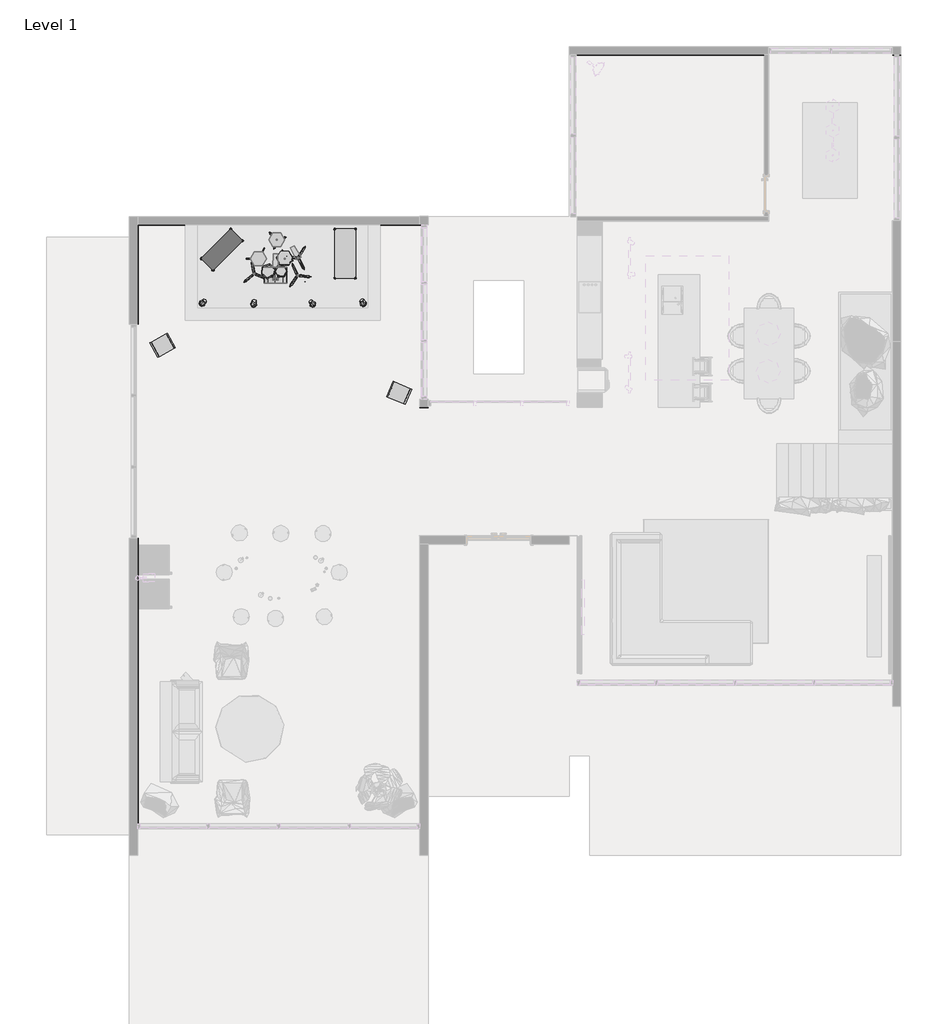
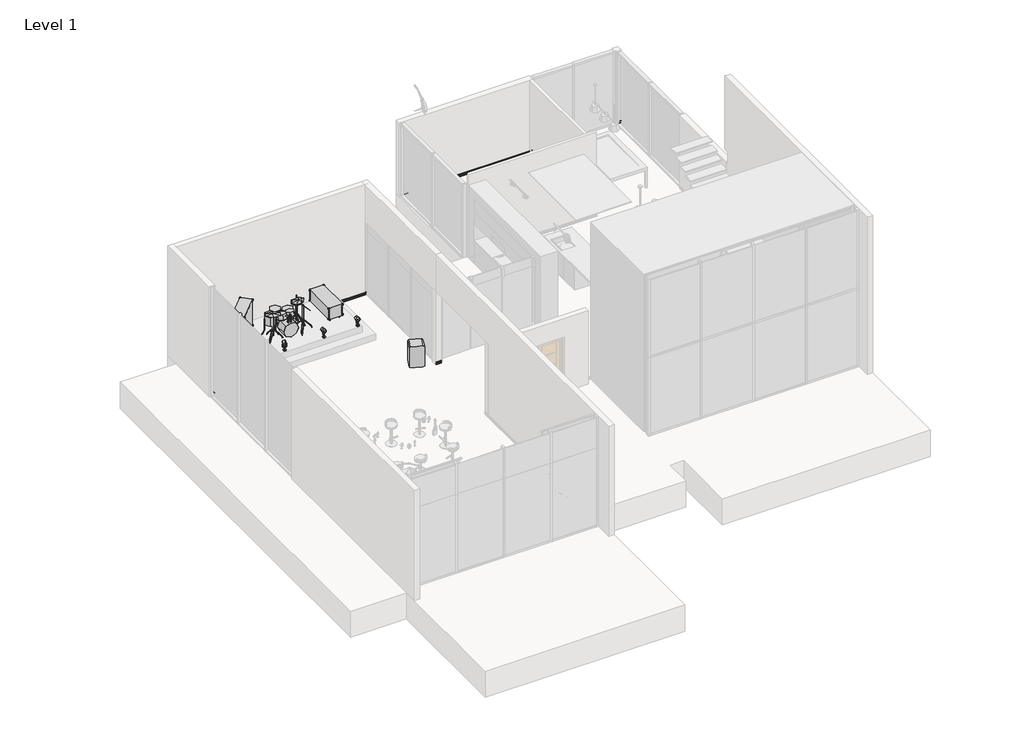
# One storey, part 3 of 6: 9 geographic elements, 1 proxy.
"""IFC4 building model written with IfcOpenShell, lengths in millimetres."""

from ifc_helpers import new_model, si_unit, frame, origin, place, context, project, spatial, polyline, circle_curve, ellipse_curve, transform, mapped, element, save
from ifc_brep_helpers import plane_surface, cylinder_surface, revolved_surface, advanced_brep
from components import enscape_assetdefinition_floor_lamp_026_enscape_de616a6a, enscape_assetdefinition_floor_lamp_026_enscape_8a451b57, enscape_assetdefinition_instrument_003_drum_set_enscape_302b556b, enscape_assetdefinition_speaker_010_enscape_assetdefinition_adeaf7f6, enscape_assetdefinition_stage_case_002_enscape_640d6d8b, enscape_assetdefinition_stage_case_003_enscape_c577ca59

model = new_model("IFC4")

# Units and contexts
model_context = context("Model", 3, world=origin())
ifc_project = project(units=[si_unit("LENGTHUNIT", "METRE", prefix="MILLI")], contexts=[model_context])

# Site, building, storey
site = spatial("IfcSite", under=ifc_project)
building = spatial("IfcBuilding", under=site)
storey = spatial("IfcBuildingStorey", under=building, Name="Level 1", Elevation=1000.0)

# Proxy
placement = place(None, origin())
element("IfcBuildingElementProxy", 1, Name="Brick Soldier Course", ObjectType="Brick Soldier Course", at=placement, inside=storey, context=model_context, shape_type="AdvancedBrep", body=[
    advanced_brep(
    [(24743.1337784, 17066.9206658, 1100.0), (24743.1337784, 17065.9239384, 1100.0), (24743.1337784, 17061.9206658, 1095.9967275), (24743.1337784, 17061.9206658, 1091.4365579), (24743.1337784, 17063.3572238, 1090.0), (24743.1337784, 17064.4323924, 1090.0), (24743.1337784, 17064.4323924, 1050.0), (24743.1337784, 17060.9323924, 1050.0), (24743.1337784, 17059.4323924, 1048.5), (24743.1337784, 17059.4323924, 1026.451226), (24743.1337784, 17060.8836184, 1025.0), (24743.1337784, 17061.9206658, 1025.0), (24743.1337784, 17061.9206658, 1017.9313406), (24743.1337784, 17060.6531616, 1017.9313406), (24743.1337784, 17059.2884138, 1016.7363778), (24743.1337784, 17053.7928378, 1000.0), (24743.1337784, 17066.9206658, 1000.0), (24543.1337784, 17066.9206658, 1100.0), (24543.1337784, 17066.9206658, 1000.0), (24543.1337784, 17053.7928378, 1000.0), (24543.1337784, 17059.2884138, 1016.7363778), (24543.1337784, 17060.6531616, 1017.9313406), (24543.1337784, 17061.9206658, 1017.9313406), (24543.1337784, 17061.9206658, 1025.0), (24543.1337784, 17060.8836184, 1025.0), (24543.1337784, 17059.4323924, 1026.451226), (24543.1337784, 17059.4323924, 1048.5), (24543.1337784, 17060.9323924, 1050.0), (24543.1337784, 17064.4323924, 1050.0), (24543.1337784, 17064.4323924, 1090.0), (24543.1337784, 17063.3572238, 1090.0), (24543.1337784, 17061.9206658, 1091.4365579), (24543.1337784, 17061.9206658, 1095.9967275), (24543.1337784, 17065.9239384, 1100.0)],
    [
        (0, 1),
        (1, 2, circle_curve(frame((24743.1337784, 17065.9239384, 1095.9967275), z_axis=(1.0, 0.0, 0.0), x_axis=(0.0, -1.0, 0.0)), 4.0032725)),
        (2, 3),
        (3, 4, circle_curve(frame((24743.1337784, 17063.3572238, 1091.4365579), z_axis=(1.0, 0.0, 0.0), x_axis=(0.0, -1.0, 0.0)), 1.4365579)),
        (4, 5),
        (5, 6),
        (6, 7),
        (7, 8, circle_curve(frame((24743.1337784, 17060.9323924, 1048.5), z_axis=(1.0, 0.0, 0.0), x_axis=(0.0, -1.0, 0.0)), 1.5)),
        (8, 9),
        (9, 10, circle_curve(frame((24743.1337784, 17060.8836184, 1026.451226), z_axis=(1.0, 0.0, 0.0), x_axis=(0.0, -1.0, 0.0)), 1.451226)),
        (10, 11),
        (11, 12),
        (12, 13),
        (13, 14, circle_curve(frame((24743.1337784, 17060.6531616, 1016.554531), z_axis=(1.0, 0.0, 0.0), x_axis=(0.0, -1.0, 0.0)), 1.3768096)),
        (14, 15, circle_curve(frame((24743.1337784, 17011.7757488, 1023.0672348), z_axis=(-1.0, 0.0, 0.0), x_axis=(0.0, -1.0, 0.0)), 47.932589)),
        (15, 16),
        (16, 0),
        (17, 18),
        (18, 19),
        (19, 20, circle_curve(frame((24543.1337784, 17011.7757488, 1023.0672348), z_axis=(1.0, 0.0, 0.0), x_axis=(0.0, -1.0, 0.0)), 47.932589)),
        (20, 21, circle_curve(frame((24543.1337784, 17060.6531616, 1016.554531), z_axis=(-1.0, 0.0, 0.0), x_axis=(0.0, -1.0, 0.0)), 1.3768096)),
        (21, 22),
        (22, 23),
        (23, 24),
        (24, 25, circle_curve(frame((24543.1337784, 17060.8836184, 1026.451226), z_axis=(-1.0, 0.0, 0.0), x_axis=(0.0, -1.0, 0.0)), 1.451226)),
        (25, 26),
        (26, 27, circle_curve(frame((24543.1337784, 17060.9323924, 1048.5), z_axis=(-1.0, 0.0, 0.0), x_axis=(0.0, -1.0, 0.0)), 1.5)),
        (27, 28),
        (28, 29),
        (29, 30),
        (30, 31, circle_curve(frame((24543.1337784, 17063.3572238, 1091.4365579), z_axis=(-1.0, 0.0, 0.0), x_axis=(0.0, -1.0, 0.0)), 1.4365579)),
        (31, 32),
        (32, 33, circle_curve(frame((24543.1337784, 17065.9239384, 1095.9967275), z_axis=(-1.0, 0.0, 0.0), x_axis=(0.0, -1.0, 0.0)), 4.0032725)),
        (33, 17),
        (0, 17),
        (33, 1),
        (32, 2),
        (31, 3),
        (30, 4),
        (29, 5),
        (28, 6),
        (27, 7),
        (26, 8),
        (25, 9),
        (24, 10),
        (23, 11),
        (22, 12),
        (21, 13),
        (20, 14),
        (19, 15),
        (18, 16),
    ],
    [
        plane_surface(frame((24743.1337784, 17066.9206658, 899.9950328), z_axis=(1.0, 0.0, 0.0), x_axis=(0.0, -1.0, 0.0))),
        plane_surface(frame((24543.1337784, 17066.9206658, 899.9950328), z_axis=(-1.0, 0.0, 0.0), x_axis=(0.0, -1.0, 0.0))),
        plane_surface(frame((24743.1337784, 17066.9206658, 1100.0), z_axis=(0.0, 0.0, 1.0), x_axis=(-1.0, 0.0, 0.0))),
        cylinder_surface(frame((24743.1337784, 17065.9239384, 1095.9967275), z_axis=(1.0, 0.0, 0.0), x_axis=(0.0, -1.0, 0.0)), 4.0032725),
        plane_surface(frame((24743.1337784, 17061.9206658, 1095.9967275), z_axis=(0.0, -1.0, 0.0), x_axis=(-1.0, 0.0, 0.0))),
        cylinder_surface(frame((24743.1337784, 17063.3572238, 1091.4365579), z_axis=(1.0, 0.0, 0.0), x_axis=(0.0, -1.0, 0.0)), 1.4365579),
        plane_surface(frame((24743.1337784, 17063.3572238, 1090.0), z_axis=(0.0, 0.0, -1.0), x_axis=(-1.0, 0.0, 0.0))),
        plane_surface(frame((24743.1337784, 17064.4323924, 1090.0), z_axis=(0.0, -1.0, 0.0), x_axis=(-1.0, 0.0, 0.0))),
        plane_surface(frame((24743.1337784, 17064.4323924, 1050.0), z_axis=(0.0, 0.0, 1.0), x_axis=(-1.0, 0.0, 0.0))),
        cylinder_surface(frame((24743.1337784, 17060.9323924, 1048.5), z_axis=(1.0, 0.0, 0.0), x_axis=(0.0, -1.0, 0.0)), 1.5),
        plane_surface(frame((24743.1337784, 17059.4323924, 1048.5), z_axis=(0.0, -1.0, 0.0), x_axis=(-1.0, 0.0, 0.0))),
        cylinder_surface(frame((24743.1337784, 17060.8836184, 1026.451226), z_axis=(1.0, 0.0, 0.0), x_axis=(0.0, -1.0, 0.0)), 1.451226),
        plane_surface(frame((24743.1337784, 17060.8836184, 1025.0), z_axis=(0.0, 0.0, -1.0), x_axis=(-1.0, 0.0, 0.0))),
        plane_surface(frame((24743.1337784, 17061.9206658, 1025.0), z_axis=(0.0, -1.0, 0.0), x_axis=(-1.0, 0.0, 0.0))),
        plane_surface(frame((24743.1337784, 17061.9206658, 1017.9313406), z_axis=(0.0, 0.0, 1.0), x_axis=(-1.0, 0.0, 0.0))),
        cylinder_surface(frame((24743.1337784, 17060.6531616, 1016.554531), z_axis=(1.0, 0.0, 0.0), x_axis=(0.0, -1.0, 0.0)), 1.3768096),
        revolved_surface(polyline([(24543.1337784, 16963.8431598, 1023.0672348), (24743.1337784, 16963.8431598, 1023.0672348)]), (24743.1337784, 17011.7757488, 1023.0672348), (-1.0, 0.0, 0.0)),
        plane_surface(frame((24743.1337784, 17053.7928378, 1000.0), z_axis=(0.0, 0.0, -1.0), x_axis=(-1.0, 0.0, 0.0))),
        plane_surface(frame((24743.1337784, 17066.9206658, 1000.0), z_axis=(0.0, 1.0, 0.0), x_axis=(-1.0, 0.0, 0.0))),
    ],
    [
        (0, [[1, 2, 3, 4, 5, 6, 7, 8, 9, 10, 11, 12, 13, 14, 15, 16, 17]]),
        (1, [[18, 19, 20, 21, 22, 23, 24, 25, 26, 27, 28, 29, 30, 31, 32, 33, 34]]),
        (2, [[-1, 35, -34, 36]]),
        (3, [[-2, -36, -33, 37]]),
        (4, [[-3, -37, -32, 38]]),
        (5, [[-4, -38, -31, 39]]),
        (6, [[-5, -39, -30, 40]]),
        (7, [[-6, -40, -29, 41]]),
        (8, [[-7, -41, -28, 42]]),
        (9, [[-8, -42, -27, 43]]),
        (10, [[-9, -43, -26, 44]]),
        (11, [[-10, -44, -25, 45]]),
        (12, [[-11, -45, -24, 46]]),
        (13, [[-12, -46, -23, 47]]),
        (14, [[-13, -47, -22, 48]]),
        (15, [[-14, -48, -21, 49]]),
        (16, [[-15, -49, -20, 50]]),
        (17, [[-16, -50, -19, 51]]),
        (18, [[-17, -51, -18, -35]]),
    ],
),
    advanced_brep(
    [(21543.1337784, 17066.9206658, 1100.0), (21543.1337784, 17065.9239384, 1100.0), (21543.1337784, 17061.9206658, 1095.9967275), (21543.1337784, 17061.9206658, 1091.4365579), (21543.1337784, 17063.3572238, 1090.0), (21543.1337784, 17064.4323924, 1090.0), (21543.1337784, 17064.4323924, 1050.0), (21543.1337784, 17060.9323924, 1050.0), (21543.1337784, 17059.4323924, 1048.5), (21543.1337784, 17059.4323924, 1026.451226), (21543.1337784, 17060.8836184, 1025.0), (21543.1337784, 17061.9206658, 1025.0), (21543.1337784, 17061.9206658, 1017.9313406), (21543.1337784, 17060.6531616, 1017.9313406), (21543.1337784, 17059.2884138, 1016.7363778), (21543.1337784, 17053.7928378, 1000.0), (21543.1337784, 17066.9206658, 1000.0), (16943.1337784, 17066.9206658, 1100.0), (16943.1337784, 17066.9206658, 1000.0), (16943.1337784, 17053.7928378, 1000.0), (16943.1337784, 17059.2884138, 1016.7363778), (16943.1337784, 17060.6531616, 1017.9313406), (16943.1337784, 17061.9206658, 1017.9313406), (16943.1337784, 17061.9206658, 1025.0), (16943.1337784, 17060.8836184, 1025.0), (16943.1337784, 17059.4323924, 1026.451226), (16943.1337784, 17059.4323924, 1048.5), (16943.1337784, 17060.9323924, 1050.0), (16943.1337784, 17064.4323924, 1050.0), (16943.1337784, 17064.4323924, 1090.0), (16943.1337784, 17063.3572238, 1090.0), (16943.1337784, 17061.9206658, 1091.4365579), (16943.1337784, 17061.9206658, 1095.9967275), (16943.1337784, 17065.9239384, 1100.0)],
    [
        (0, 1),
        (1, 2, circle_curve(frame((21543.1337784, 17065.9239384, 1095.9967275), z_axis=(1.0, 0.0, 0.0), x_axis=(0.0, -1.0, 0.0)), 4.0032725)),
        (2, 3),
        (3, 4, circle_curve(frame((21543.1337784, 17063.3572238, 1091.4365579), z_axis=(1.0, 0.0, 0.0), x_axis=(0.0, -1.0, 0.0)), 1.4365579)),
        (4, 5),
        (5, 6),
        (6, 7),
        (7, 8, circle_curve(frame((21543.1337784, 17060.9323924, 1048.5), z_axis=(1.0, 0.0, 0.0), x_axis=(0.0, -1.0, 0.0)), 1.5)),
        (8, 9),
        (9, 10, circle_curve(frame((21543.1337784, 17060.8836184, 1026.451226), z_axis=(1.0, 0.0, 0.0), x_axis=(0.0, -1.0, 0.0)), 1.451226)),
        (10, 11),
        (11, 12),
        (12, 13),
        (13, 14, circle_curve(frame((21543.1337784, 17060.6531616, 1016.554531), z_axis=(1.0, 0.0, 0.0), x_axis=(0.0, -1.0, 0.0)), 1.3768096)),
        (14, 15, circle_curve(frame((21543.1337784, 17011.7757488, 1023.0672348), z_axis=(-1.0, 0.0, 0.0), x_axis=(0.0, -1.0, 0.0)), 47.932589)),
        (15, 16),
        (16, 0),
        (17, 18),
        (18, 19),
        (19, 20, circle_curve(frame((16943.1337784, 17011.7757488, 1023.0672348), z_axis=(1.0, 0.0, 0.0), x_axis=(0.0, -1.0, 0.0)), 47.932589)),
        (20, 21, circle_curve(frame((16943.1337784, 17060.6531616, 1016.554531), z_axis=(-1.0, 0.0, 0.0), x_axis=(0.0, -1.0, 0.0)), 1.3768096)),
        (21, 22),
        (22, 23),
        (23, 24),
        (24, 25, circle_curve(frame((16943.1337784, 17060.8836184, 1026.451226), z_axis=(-1.0, 0.0, 0.0), x_axis=(0.0, -1.0, 0.0)), 1.451226)),
        (25, 26),
        (26, 27, circle_curve(frame((16943.1337784, 17060.9323924, 1048.5), z_axis=(-1.0, 0.0, 0.0), x_axis=(0.0, -1.0, 0.0)), 1.5)),
        (27, 28),
        (28, 29),
        (29, 30),
        (30, 31, circle_curve(frame((16943.1337784, 17063.3572238, 1091.4365579), z_axis=(-1.0, 0.0, 0.0), x_axis=(0.0, -1.0, 0.0)), 1.4365579)),
        (31, 32),
        (32, 33, circle_curve(frame((16943.1337784, 17065.9239384, 1095.9967275), z_axis=(-1.0, 0.0, 0.0), x_axis=(0.0, -1.0, 0.0)), 4.0032725)),
        (33, 17),
        (0, 17),
        (33, 1),
        (32, 2),
        (31, 3),
        (30, 4),
        (29, 5),
        (28, 6),
        (27, 7),
        (26, 8),
        (25, 9),
        (24, 10),
        (23, 11),
        (22, 12),
        (21, 13),
        (20, 14),
        (19, 15),
        (18, 16),
    ],
    [
        plane_surface(frame((21543.1337784, 17066.9206658, 899.9950328), z_axis=(1.0, 0.0, 0.0), x_axis=(0.0, -1.0, 0.0))),
        plane_surface(frame((16943.1337784, 17066.9206658, 899.9950328), z_axis=(-1.0, 0.0, 0.0), x_axis=(0.0, -1.0, 0.0))),
        plane_surface(frame((21543.1337784, 17066.9206658, 1100.0), z_axis=(0.0, 0.0, 1.0), x_axis=(-1.0, 0.0, 0.0))),
        cylinder_surface(frame((21543.1337784, 17065.9239384, 1095.9967275), z_axis=(1.0, 0.0, 0.0), x_axis=(0.0, -1.0, 0.0)), 4.0032725),
        plane_surface(frame((21543.1337784, 17061.9206658, 1095.9967275), z_axis=(0.0, -1.0, 0.0), x_axis=(-1.0, 0.0, 0.0))),
        cylinder_surface(frame((21543.1337784, 17063.3572238, 1091.4365579), z_axis=(1.0, 0.0, 0.0), x_axis=(0.0, -1.0, 0.0)), 1.4365579),
        plane_surface(frame((21543.1337784, 17063.3572238, 1090.0), z_axis=(0.0, 0.0, -1.0), x_axis=(-1.0, 0.0, 0.0))),
        plane_surface(frame((21543.1337784, 17064.4323924, 1090.0), z_axis=(0.0, -1.0, 0.0), x_axis=(-1.0, 0.0, 0.0))),
        plane_surface(frame((21543.1337784, 17064.4323924, 1050.0), z_axis=(0.0, 0.0, 1.0), x_axis=(-1.0, 0.0, 0.0))),
        cylinder_surface(frame((21543.1337784, 17060.9323924, 1048.5), z_axis=(1.0, 0.0, 0.0), x_axis=(0.0, -1.0, 0.0)), 1.5),
        plane_surface(frame((21543.1337784, 17059.4323924, 1048.5), z_axis=(0.0, -1.0, 0.0), x_axis=(-1.0, 0.0, 0.0))),
        cylinder_surface(frame((21543.1337784, 17060.8836184, 1026.451226), z_axis=(1.0, 0.0, 0.0), x_axis=(0.0, -1.0, 0.0)), 1.451226),
        plane_surface(frame((21543.1337784, 17060.8836184, 1025.0), z_axis=(0.0, 0.0, -1.0), x_axis=(-1.0, 0.0, 0.0))),
        plane_surface(frame((21543.1337784, 17061.9206658, 1025.0), z_axis=(0.0, -1.0, 0.0), x_axis=(-1.0, 0.0, 0.0))),
        plane_surface(frame((21543.1337784, 17061.9206658, 1017.9313406), z_axis=(0.0, 0.0, 1.0), x_axis=(-1.0, 0.0, 0.0))),
        cylinder_surface(frame((21543.1337784, 17060.6531616, 1016.554531), z_axis=(1.0, 0.0, 0.0), x_axis=(0.0, -1.0, 0.0)), 1.3768096),
        revolved_surface(polyline([(16943.1337784, 16963.8431598, 1023.0672348), (21543.1337784, 16963.8431598, 1023.0672348)]), (21543.1337784, 17011.7757488, 1023.0672348), (-1.0, 0.0, 0.0)),
        plane_surface(frame((21543.1337784, 17053.7928378, 1000.0), z_axis=(0.0, 0.0, -1.0), x_axis=(-1.0, 0.0, 0.0))),
        plane_surface(frame((21543.1337784, 17066.9206658, 1000.0), z_axis=(0.0, 1.0, 0.0), x_axis=(-1.0, 0.0, 0.0))),
    ],
    [
        (0, [[1, 2, 3, 4, 5, 6, 7, 8, 9, 10, 11, 12, 13, 14, 15, 16, 17]]),
        (1, [[18, 19, 20, 21, 22, 23, 24, 25, 26, 27, 28, 29, 30, 31, 32, 33, 34]]),
        (2, [[-1, 35, -34, 36]]),
        (3, [[-2, -36, -33, 37]]),
        (4, [[-3, -37, -32, 38]]),
        (5, [[-4, -38, -31, 39]]),
        (6, [[-5, -39, -30, 40]]),
        (7, [[-6, -40, -29, 41]]),
        (8, [[-7, -41, -28, 42]]),
        (9, [[-8, -42, -27, 43]]),
        (10, [[-9, -43, -26, 44]]),
        (11, [[-10, -44, -25, 45]]),
        (12, [[-11, -45, -24, 46]]),
        (13, [[-12, -46, -23, 47]]),
        (14, [[-13, -47, -22, 48]]),
        (15, [[-14, -48, -21, 49]]),
        (16, [[-15, -49, -20, 50]]),
        (17, [[-16, -50, -19, 51]]),
        (18, [[-17, -51, -18, -35]]),
    ],
),
    advanced_brep(
    [(6343.1337784, 12966.9206658, 1100.0), (6343.1337784, 12966.9206658, 1000.0), (6356.2616065, 12953.7928378, 1000.0), (6350.7660304, 12959.2884138, 1016.7363778), (6349.4012827, 12960.6531616, 1017.9313406), (6348.1337784, 12961.9206658, 1017.9313406), (6348.1337784, 12961.9206658, 1025.0), (6349.1708258, 12960.8836184, 1025.0), (6350.6220518, 12959.4323924, 1026.451226), (6350.6220518, 12959.4323924, 1048.5), (6349.1220518, 12960.9323924, 1050.0), (6345.6220518, 12964.4323924, 1050.0), (6345.6220518, 12964.4323924, 1090.0), (6346.6972204, 12963.3572238, 1090.0), (6348.1337784, 12961.9206658, 1091.4365579), (6348.1337784, 12961.9206658, 1095.9967275), (6344.1305058, 12965.9239384, 1100.0), (13178.6337784, 12966.9206658, 1100.0), (13178.6337784, 12965.9239384, 1100.0), (13178.6337784, 12961.9206658, 1095.9967275), (13178.6337784, 12961.9206658, 1091.4365579), (13178.6337784, 12963.3572238, 1090.0), (13178.6337784, 12964.4323924, 1090.0), (13178.6337784, 12964.4323924, 1050.0), (13178.6337784, 12960.9323924, 1050.0), (13178.6337784, 12959.4323924, 1048.5), (13178.6337784, 12959.4323924, 1026.451226), (13178.6337784, 12960.8836184, 1025.0), (13178.6337784, 12961.9206658, 1025.0), (13178.6337784, 12961.9206658, 1017.9313406), (13178.6337784, 12960.6531616, 1017.9313406), (13178.6337784, 12959.2884138, 1016.7363778), (13178.6337784, 12953.7928378, 1000.0), (13178.6337784, 12966.9206658, 1000.0)],
    [
        (0, 1),
        (1, 2),
        (2, 3, ellipse_curve(frame((6398.2786954, 12911.7757488, 1023.0672348), z_axis=(0.7071067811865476, 0.7071067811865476, 0.0), x_axis=(0.7071067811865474, -0.7071067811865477, 0.0)), 67.7869174, 47.932589)),
        (3, 4, ellipse_curve(frame((6349.4012827, 12960.6531616, 1016.554531), z_axis=(-0.7071067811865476, -0.7071067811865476, 0.0), x_axis=(-0.7071067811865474, 0.7071067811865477, 0.0)), 1.9471028, 1.3768096)),
        (4, 5),
        (5, 6),
        (6, 7),
        (7, 8, ellipse_curve(frame((6349.1708258, 12960.8836184, 1026.451226), z_axis=(-0.7071067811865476, -0.7071067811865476, 0.0), x_axis=(-0.7071067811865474, 0.7071067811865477, 0.0)), 2.0523435, 1.451226)),
        (8, 9),
        (9, 10, ellipse_curve(frame((6349.1220518, 12960.9323924, 1048.5), z_axis=(-0.7071067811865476, -0.7071067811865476, 0.0), x_axis=(-0.7071067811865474, 0.7071067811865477, 0.0)), 2.1213203, 1.5)),
        (10, 11),
        (11, 12),
        (12, 13),
        (13, 14, ellipse_curve(frame((6346.6972204, 12963.3572238, 1091.4365579), z_axis=(-0.7071067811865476, -0.7071067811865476, 0.0), x_axis=(-0.7071067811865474, 0.7071067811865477, 0.0)), 2.0315997, 1.4365579)),
        (14, 15),
        (15, 16, ellipse_curve(frame((6344.1305058, 12965.9239384, 1095.9967275), z_axis=(-0.7071067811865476, -0.7071067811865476, 0.0), x_axis=(-0.7071067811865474, 0.7071067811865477, 0.0)), 5.6614823, 4.0032725)),
        (16, 0),
        (17, 18),
        (18, 19, circle_curve(frame((13178.6337784, 12965.9239384, 1095.9967275), z_axis=(1.0, 0.0, 0.0), x_axis=(0.0, -1.0, 0.0)), 4.0032725)),
        (19, 20),
        (20, 21, circle_curve(frame((13178.6337784, 12963.3572238, 1091.4365579), z_axis=(1.0, 0.0, 0.0), x_axis=(0.0, -1.0, 0.0)), 1.4365579)),
        (21, 22),
        (22, 23),
        (23, 24),
        (24, 25, circle_curve(frame((13178.6337784, 12960.9323924, 1048.5), z_axis=(1.0, 0.0, 0.0), x_axis=(0.0, -1.0, 0.0)), 1.5)),
        (25, 26),
        (26, 27, circle_curve(frame((13178.6337784, 12960.8836184, 1026.451226), z_axis=(1.0, 0.0, 0.0), x_axis=(0.0, -1.0, 0.0)), 1.451226)),
        (27, 28),
        (28, 29),
        (29, 30),
        (30, 31, circle_curve(frame((13178.6337784, 12960.6531616, 1016.554531), z_axis=(1.0, 0.0, 0.0), x_axis=(0.0, -1.0, 0.0)), 1.3768096)),
        (31, 32, circle_curve(frame((13178.6337784, 12911.7757488, 1023.0672348), z_axis=(-1.0, 0.0, 0.0), x_axis=(0.0, -1.0, 0.0)), 47.932589)),
        (32, 33),
        (33, 17),
        (0, 17),
        (33, 1),
        (32, 2),
        (31, 3),
        (30, 4),
        (29, 5),
        (28, 6),
        (27, 7),
        (26, 8),
        (25, 9),
        (24, 10),
        (23, 11),
        (22, 12),
        (21, 13),
        (20, 14),
        (19, 15),
        (18, 16),
    ],
    [
        plane_surface(frame((6343.1337784, 12966.9206658, 1304.8), z_axis=(-0.7071067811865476, -0.7071067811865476, 0.0), x_axis=(0.7071067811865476, -0.7071067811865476, 0.0))),
        plane_surface(frame((13178.6337784, 12966.9206658, 899.9950328), z_axis=(1.0, 0.0, 0.0), x_axis=(0.0, 1.0, 0.0))),
        plane_surface(frame((6343.1337784, 12966.9206658, 1100.0), z_axis=(0.0, 1.0, 0.0), x_axis=(1.0, 0.0, 0.0))),
        plane_surface(frame((6343.1337784, 12966.9206658, 1000.0), z_axis=(0.0, 0.0, -1.0), x_axis=(1.0, 0.0, 0.0))),
        revolved_surface(polyline([(13178.6337784, 12863.8431598, 1023.0672348), (6350.346106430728, 12863.8431598, 1023.0672348)]), (6343.1337784, 12911.7757488, 1023.0672348), (1.0, 0.0, 0.0)),
        cylinder_surface(frame((6343.1337784, 12960.6531616, 1016.554531), z_axis=(-1.0, 0.0, 0.0), x_axis=(0.0, -1.0, 0.0)), 1.3768096),
        plane_surface(frame((6349.4012827, 12960.6531616, 1017.9313406), z_axis=(0.0, 0.0, 1.0), x_axis=(1.0, 0.0, 0.0))),
        plane_surface(frame((6348.1337784, 12961.9206658, 1017.9313406), z_axis=(0.0, -1.0, 0.0), x_axis=(1.0, 0.0, 0.0))),
        plane_surface(frame((6348.1337784, 12961.9206658, 1025.0), z_axis=(0.0, 0.0, -1.0), x_axis=(1.0, 0.0, 0.0))),
        cylinder_surface(frame((6343.1337784, 12960.8836184, 1026.451226), z_axis=(-1.0, 0.0, 0.0), x_axis=(0.0, -1.0, 0.0)), 1.451226),
        plane_surface(frame((6350.6220518, 12959.4323924, 1026.451226), z_axis=(0.0, -1.0, 0.0), x_axis=(1.0, 0.0, 0.0))),
        cylinder_surface(frame((6343.1337784, 12960.9323924, 1048.5), z_axis=(-1.0, 0.0, 0.0), x_axis=(0.0, -1.0, 0.0)), 1.5),
        plane_surface(frame((6349.1220518, 12960.9323924, 1050.0), z_axis=(0.0, 0.0, 1.0), x_axis=(1.0, 0.0, 0.0))),
        plane_surface(frame((6345.6220518, 12964.4323924, 1050.0), z_axis=(0.0, -1.0, 0.0), x_axis=(1.0, 0.0, 0.0))),
        plane_surface(frame((6345.6220518, 12964.4323924, 1090.0), z_axis=(0.0, 0.0, -1.0), x_axis=(1.0, 0.0, 0.0))),
        cylinder_surface(frame((6343.1337784, 12963.3572238, 1091.4365579), z_axis=(-1.0, 0.0, 0.0), x_axis=(0.0, -1.0, 0.0)), 1.4365579),
        plane_surface(frame((6348.1337784, 12961.9206658, 1091.4365579), z_axis=(0.0, -1.0, 0.0), x_axis=(1.0, 0.0, 0.0))),
        cylinder_surface(frame((6343.1337784, 12965.9239384, 1095.9967275), z_axis=(-1.0, 0.0, 0.0), x_axis=(0.0, -1.0, 0.0)), 4.0032725),
        plane_surface(frame((6344.1305058, 12965.9239384, 1100.0), z_axis=(0.0, 0.0, 1.0), x_axis=(1.0, 0.0, 0.0))),
    ],
    [
        (0, [[1, 2, 3, 4, 5, 6, 7, 8, 9, 10, 11, 12, 13, 14, 15, 16, 17]]),
        (1, [[18, 19, 20, 21, 22, 23, 24, 25, 26, 27, 28, 29, 30, 31, 32, 33, 34]]),
        (2, [[-1, 35, -34, 36]]),
        (3, [[-2, -36, -33, 37]]),
        (4, [[-3, -37, -32, 38]]),
        (5, [[-4, -38, -31, 39]]),
        (6, [[-5, -39, -30, 40]]),
        (7, [[-6, -40, -29, 41]]),
        (8, [[-7, -41, -28, 42]]),
        (9, [[-8, -42, -27, 43]]),
        (10, [[-9, -43, -26, 44]]),
        (11, [[-10, -44, -25, 45]]),
        (12, [[-11, -45, -24, 46]]),
        (13, [[-12, -46, -23, 47]]),
        (14, [[-13, -47, -22, 48]]),
        (15, [[-14, -48, -21, 49]]),
        (16, [[-15, -49, -20, 50]]),
        (17, [[-16, -50, -19, 51]]),
        (18, [[-17, -51, -18, -35]]),
    ],
),
    advanced_brep(
    [(13342.1337784, 8566.9206658, 1100.0), (13342.1337784, 8565.9239384, 1100.0), (13342.1337784, 8561.9206658, 1095.9967275), (13342.1337784, 8561.9206658, 1091.4365579), (13342.1337784, 8563.3572238, 1090.0), (13342.1337784, 8564.4323924, 1090.0), (13342.1337784, 8564.4323924, 1050.0), (13342.1337784, 8560.9323924, 1050.0), (13342.1337784, 8559.4323924, 1048.5), (13342.1337784, 8559.4323924, 1026.451226), (13342.1337784, 8560.8836184, 1025.0), (13342.1337784, 8561.9206658, 1025.0), (13342.1337784, 8561.9206658, 1017.9313406), (13342.1337784, 8560.6531616, 1017.9313406), (13342.1337784, 8559.2884138, 1016.7363778), (13342.1337784, 8553.7928378, 1000.0), (13342.1337784, 8566.9206658, 1000.0), (13142.1337784, 8566.9206658, 1100.0), (13142.1337784, 8566.9206658, 1000.0), (13142.1337784, 8553.7928378, 1000.0), (13142.1337784, 8559.2884138, 1016.7363778), (13142.1337784, 8560.6531616, 1017.9313406), (13142.1337784, 8561.9206658, 1017.9313406), (13142.1337784, 8561.9206658, 1025.0), (13142.1337784, 8560.8836184, 1025.0), (13142.1337784, 8559.4323924, 1026.451226), (13142.1337784, 8559.4323924, 1048.5), (13142.1337784, 8560.9323924, 1050.0), (13142.1337784, 8564.4323924, 1050.0), (13142.1337784, 8564.4323924, 1090.0), (13142.1337784, 8563.3572238, 1090.0), (13142.1337784, 8561.9206658, 1091.4365579), (13142.1337784, 8561.9206658, 1095.9967275), (13142.1337784, 8565.9239384, 1100.0)],
    [
        (0, 1),
        (1, 2, circle_curve(frame((13342.1337784, 8565.9239384, 1095.9967275), z_axis=(1.0, 0.0, 0.0), x_axis=(0.0, -1.0, 0.0)), 4.0032725)),
        (2, 3),
        (3, 4, circle_curve(frame((13342.1337784, 8563.3572238, 1091.4365579), z_axis=(1.0, 0.0, 0.0), x_axis=(0.0, -1.0, 0.0)), 1.4365579)),
        (4, 5),
        (5, 6),
        (6, 7),
        (7, 8, circle_curve(frame((13342.1337784, 8560.9323924, 1048.5), z_axis=(1.0, 0.0, 0.0), x_axis=(0.0, -1.0, 0.0)), 1.5)),
        (8, 9),
        (9, 10, circle_curve(frame((13342.1337784, 8560.8836184, 1026.451226), z_axis=(1.0, 0.0, 0.0), x_axis=(0.0, -1.0, 0.0)), 1.451226)),
        (10, 11),
        (11, 12),
        (12, 13),
        (13, 14, circle_curve(frame((13342.1337784, 8560.6531616, 1016.554531), z_axis=(1.0, 0.0, 0.0), x_axis=(0.0, -1.0, 0.0)), 1.3768096)),
        (14, 15, circle_curve(frame((13342.1337784, 8511.7757488, 1023.0672348), z_axis=(-1.0, 0.0, 0.0), x_axis=(0.0, -1.0, 0.0)), 47.932589)),
        (15, 16),
        (16, 0),
        (17, 18),
        (18, 19),
        (19, 20, circle_curve(frame((13142.1337784, 8511.7757488, 1023.0672348), z_axis=(1.0, 0.0, 0.0), x_axis=(0.0, -1.0, 0.0)), 47.932589)),
        (20, 21, circle_curve(frame((13142.1337784, 8560.6531616, 1016.554531), z_axis=(-1.0, 0.0, 0.0), x_axis=(0.0, -1.0, 0.0)), 1.3768096)),
        (21, 22),
        (22, 23),
        (23, 24),
        (24, 25, circle_curve(frame((13142.1337784, 8560.8836184, 1026.451226), z_axis=(-1.0, 0.0, 0.0), x_axis=(0.0, -1.0, 0.0)), 1.451226)),
        (25, 26),
        (26, 27, circle_curve(frame((13142.1337784, 8560.9323924, 1048.5), z_axis=(-1.0, 0.0, 0.0), x_axis=(0.0, -1.0, 0.0)), 1.5)),
        (27, 28),
        (28, 29),
        (29, 30),
        (30, 31, circle_curve(frame((13142.1337784, 8563.3572238, 1091.4365579), z_axis=(-1.0, 0.0, 0.0), x_axis=(0.0, -1.0, 0.0)), 1.4365579)),
        (31, 32),
        (32, 33, circle_curve(frame((13142.1337784, 8565.9239384, 1095.9967275), z_axis=(-1.0, 0.0, 0.0), x_axis=(0.0, -1.0, 0.0)), 4.0032725)),
        (33, 17),
        (0, 17),
        (33, 1),
        (32, 2),
        (31, 3),
        (30, 4),
        (29, 5),
        (28, 6),
        (27, 7),
        (26, 8),
        (25, 9),
        (24, 10),
        (23, 11),
        (22, 12),
        (21, 13),
        (20, 14),
        (19, 15),
        (18, 16),
    ],
    [
        plane_surface(frame((13342.1337784, 8566.9206658, 899.9950328), z_axis=(1.0, 0.0, 0.0), x_axis=(0.0, -1.0, 0.0))),
        plane_surface(frame((13142.1337784, 8566.9206658, 899.9950328), z_axis=(-1.0, 0.0, 0.0), x_axis=(0.0, -1.0, 0.0))),
        plane_surface(frame((13342.1337784, 8566.9206658, 1100.0), z_axis=(0.0, 0.0, 1.0), x_axis=(-1.0, 0.0, 0.0))),
        cylinder_surface(frame((13342.1337784, 8565.9239384, 1095.9967275), z_axis=(1.0, 0.0, 0.0), x_axis=(0.0, -1.0, 0.0)), 4.0032725),
        plane_surface(frame((13342.1337784, 8561.9206658, 1095.9967275), z_axis=(0.0, -1.0, 0.0), x_axis=(-1.0, 0.0, 0.0))),
        cylinder_surface(frame((13342.1337784, 8563.3572238, 1091.4365579), z_axis=(1.0, 0.0, 0.0), x_axis=(0.0, -1.0, 0.0)), 1.4365579),
        plane_surface(frame((13342.1337784, 8563.3572238, 1090.0), z_axis=(0.0, 0.0, -1.0), x_axis=(-1.0, 0.0, 0.0))),
        plane_surface(frame((13342.1337784, 8564.4323924, 1090.0), z_axis=(0.0, -1.0, 0.0), x_axis=(-1.0, 0.0, 0.0))),
        plane_surface(frame((13342.1337784, 8564.4323924, 1050.0), z_axis=(0.0, 0.0, 1.0), x_axis=(-1.0, 0.0, 0.0))),
        cylinder_surface(frame((13342.1337784, 8560.9323924, 1048.5), z_axis=(1.0, 0.0, 0.0), x_axis=(0.0, -1.0, 0.0)), 1.5),
        plane_surface(frame((13342.1337784, 8559.4323924, 1048.5), z_axis=(0.0, -1.0, 0.0), x_axis=(-1.0, 0.0, 0.0))),
        cylinder_surface(frame((13342.1337784, 8560.8836184, 1026.451226), z_axis=(1.0, 0.0, 0.0), x_axis=(0.0, -1.0, 0.0)), 1.451226),
        plane_surface(frame((13342.1337784, 8560.8836184, 1025.0), z_axis=(0.0, 0.0, -1.0), x_axis=(-1.0, 0.0, 0.0))),
        plane_surface(frame((13342.1337784, 8561.9206658, 1025.0), z_axis=(0.0, -1.0, 0.0), x_axis=(-1.0, 0.0, 0.0))),
        plane_surface(frame((13342.1337784, 8561.9206658, 1017.9313406), z_axis=(0.0, 0.0, 1.0), x_axis=(-1.0, 0.0, 0.0))),
        cylinder_surface(frame((13342.1337784, 8560.6531616, 1016.554531), z_axis=(1.0, 0.0, 0.0), x_axis=(0.0, -1.0, 0.0)), 1.3768096),
        revolved_surface(polyline([(13142.1337784, 8463.8431598, 1023.0672348), (13342.1337784, 8463.8431598, 1023.0672348)]), (13342.1337784, 8511.7757488, 1023.0672348), (-1.0, 0.0, 0.0)),
        plane_surface(frame((13342.1337784, 8553.7928378, 1000.0), z_axis=(0.0, 0.0, -1.0), x_axis=(-1.0, 0.0, 0.0))),
        plane_surface(frame((13342.1337784, 8566.9206658, 1000.0), z_axis=(0.0, 1.0, 0.0), x_axis=(-1.0, 0.0, 0.0))),
    ],
    [
        (0, [[1, 2, 3, 4, 5, 6, 7, 8, 9, 10, 11, 12, 13, 14, 15, 16, 17]]),
        (1, [[18, 19, 20, 21, 22, 23, 24, 25, 26, 27, 28, 29, 30, 31, 32, 33, 34]]),
        (2, [[-1, 35, -34, 36]]),
        (3, [[-2, -36, -33, 37]]),
        (4, [[-3, -37, -32, 38]]),
        (5, [[-4, -38, -31, 39]]),
        (6, [[-5, -39, -30, 40]]),
        (7, [[-6, -40, -29, 41]]),
        (8, [[-7, -41, -28, 42]]),
        (9, [[-8, -42, -27, 43]]),
        (10, [[-9, -43, -26, 44]]),
        (11, [[-10, -44, -25, 45]]),
        (12, [[-11, -45, -24, 46]]),
        (13, [[-12, -46, -23, 47]]),
        (14, [[-13, -47, -22, 48]]),
        (15, [[-14, -48, -21, 49]]),
        (16, [[-15, -49, -20, 50]]),
        (17, [[-16, -50, -19, 51]]),
        (18, [[-17, -51, -18, -35]]),
    ],
),
    advanced_brep(
    [(6343.1337784, 12966.9206658, 1100.0), (6344.1305058, 12965.9239384, 1100.0), (6348.1337784, 12961.9206658, 1095.9967275), (6348.1337784, 12961.9206658, 1091.4365579), (6346.6972204, 12963.3572238, 1090.0), (6345.6220518, 12964.4323924, 1090.0), (6345.6220518, 12964.4323924, 1050.0), (6349.1220518, 12960.9323924, 1050.0), (6350.6220518, 12959.4323924, 1048.5), (6350.6220518, 12959.4323924, 1026.451226), (6349.1708258, 12960.8836184, 1025.0), (6348.1337784, 12961.9206658, 1025.0), (6348.1337784, 12961.9206658, 1017.9313406), (6349.4012827, 12960.6531616, 1017.9313406), (6350.7660304, 12959.2884138, 1016.7363778), (6356.2616065, 12953.7928378, 1000.0), (6343.1337784, 12966.9206658, 1000.0), (6343.1337784, 10566.9206658, 1100.0), (6343.1337784, 10566.9206658, 1000.0), (6356.2616065, 10566.9206658, 1000.0), (6350.7660304, 10566.9206658, 1016.7363778), (6349.4012827, 10566.9206658, 1017.9313406), (6348.1337784, 10566.9206658, 1017.9313406), (6348.1337784, 10566.9206658, 1025.0), (6349.1708258, 10566.9206658, 1025.0), (6350.6220518, 10566.9206658, 1026.451226), (6350.6220518, 10566.9206658, 1048.5), (6349.1220518, 10566.9206658, 1050.0), (6345.6220518, 10566.9206658, 1050.0), (6345.6220518, 10566.9206658, 1090.0), (6346.6972204, 10566.9206658, 1090.0), (6348.1337784, 10566.9206658, 1091.4365579), (6348.1337784, 10566.9206658, 1095.9967275), (6344.1305058, 10566.9206658, 1100.0)],
    [
        (0, 1),
        (1, 2, ellipse_curve(frame((6344.1305058, 12965.9239384, 1095.9967275), z_axis=(0.7071067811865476, 0.7071067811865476, 0.0), x_axis=(-0.7071067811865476, 0.7071067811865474, 0.0)), 5.6614823, 4.0032725)),
        (2, 3),
        (3, 4, ellipse_curve(frame((6346.6972204, 12963.3572238, 1091.4365579), z_axis=(0.7071067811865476, 0.7071067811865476, 0.0), x_axis=(-0.7071067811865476, 0.7071067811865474, 0.0)), 2.0315997, 1.4365579)),
        (4, 5),
        (5, 6),
        (6, 7),
        (7, 8, ellipse_curve(frame((6349.1220518, 12960.9323924, 1048.5), z_axis=(0.7071067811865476, 0.7071067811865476, 0.0), x_axis=(-0.7071067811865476, 0.7071067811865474, 0.0)), 2.1213203, 1.5)),
        (8, 9),
        (9, 10, ellipse_curve(frame((6349.1708258, 12960.8836184, 1026.451226), z_axis=(0.7071067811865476, 0.7071067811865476, 0.0), x_axis=(-0.7071067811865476, 0.7071067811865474, 0.0)), 2.0523435, 1.451226)),
        (10, 11),
        (11, 12),
        (12, 13),
        (13, 14, ellipse_curve(frame((6349.4012827, 12960.6531616, 1016.554531), z_axis=(0.7071067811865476, 0.7071067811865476, 0.0), x_axis=(-0.7071067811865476, 0.7071067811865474, 0.0)), 1.9471028, 1.3768096)),
        (14, 15, ellipse_curve(frame((6398.2786954, 12911.7757488, 1023.0672348), z_axis=(-0.7071067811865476, -0.7071067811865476, 0.0), x_axis=(0.7071067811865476, -0.7071067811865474, 0.0)), 67.7869174, 47.932589)),
        (15, 16),
        (16, 0),
        (17, 18),
        (18, 19),
        (19, 20, circle_curve(frame((6398.2786954, 10566.9206658, 1023.0672348), z_axis=(0.0, 1.0, 0.0), x_axis=(1.0, 0.0, 0.0)), 47.932589)),
        (20, 21, circle_curve(frame((6349.4012827, 10566.9206658, 1016.554531), z_axis=(0.0, -1.0, 0.0), x_axis=(1.0, 0.0, 0.0)), 1.3768096)),
        (21, 22),
        (22, 23),
        (23, 24),
        (24, 25, circle_curve(frame((6349.1708258, 10566.9206658, 1026.451226), z_axis=(0.0, -1.0, 0.0), x_axis=(1.0, 0.0, 0.0)), 1.451226)),
        (25, 26),
        (26, 27, circle_curve(frame((6349.1220518, 10566.9206658, 1048.5), z_axis=(0.0, -1.0, 0.0), x_axis=(1.0, 0.0, 0.0)), 1.5)),
        (27, 28),
        (28, 29),
        (29, 30),
        (30, 31, circle_curve(frame((6346.6972204, 10566.9206658, 1091.4365579), z_axis=(0.0, -1.0, 0.0), x_axis=(1.0, 0.0, 0.0)), 1.4365579)),
        (31, 32),
        (32, 33, circle_curve(frame((6344.1305058, 10566.9206658, 1095.9967275), z_axis=(0.0, -1.0, 0.0), x_axis=(1.0, 0.0, 0.0)), 4.0032725)),
        (33, 17),
        (0, 17),
        (33, 1),
        (32, 2),
        (31, 3),
        (30, 4),
        (29, 5),
        (28, 6),
        (27, 7),
        (26, 8),
        (25, 9),
        (24, 10),
        (23, 11),
        (22, 12),
        (21, 13),
        (20, 14),
        (19, 15),
        (18, 16),
    ],
    [
        plane_surface(frame((6343.1337784, 12966.9206658, 695.2), z_axis=(0.7071067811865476, 0.7071067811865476, 0.0), x_axis=(0.7071067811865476, -0.7071067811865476, 0.0))),
        plane_surface(frame((6243.1288112, 10566.9206658, 1000.0), z_axis=(0.0, -1.0, 0.0), x_axis=(0.0, 0.0, -1.0))),
        plane_surface(frame((6343.1337784, 12966.9206658, 1100.0), z_axis=(0.0, 0.0, 1.0), x_axis=(0.0, -1.0, 0.0))),
        cylinder_surface(frame((6344.1305058, 12966.9206658, 1095.9967275), z_axis=(0.0, 1.0, 0.0), x_axis=(1.0, 0.0, 0.0)), 4.0032725),
        plane_surface(frame((6348.1337784, 12961.9206658, 1095.9967275), z_axis=(1.0, 0.0, 0.0), x_axis=(0.0, -1.0, 0.0))),
        cylinder_surface(frame((6346.6972204, 12966.9206658, 1091.4365579), z_axis=(0.0, 1.0, 0.0), x_axis=(1.0, 0.0, 0.0)), 1.4365579),
        plane_surface(frame((6346.6972204, 12963.3572238, 1090.0), z_axis=(0.0, 0.0, -1.0), x_axis=(0.0, -1.0, 0.0))),
        plane_surface(frame((6345.6220518, 12964.4323924, 1090.0), z_axis=(1.0, 0.0, 0.0), x_axis=(0.0, -1.0, 0.0))),
        plane_surface(frame((6345.6220518, 12964.4323924, 1050.0), z_axis=(0.0, 0.0, 1.0), x_axis=(0.0, -1.0, 0.0))),
        cylinder_surface(frame((6349.1220518, 12966.9206658, 1048.5), z_axis=(0.0, 1.0, 0.0), x_axis=(1.0, 0.0, 0.0)), 1.5),
        plane_surface(frame((6350.6220518, 12959.4323924, 1048.5), z_axis=(1.0, 0.0, 0.0), x_axis=(0.0, -1.0, 0.0))),
        cylinder_surface(frame((6349.1708258, 12966.9206658, 1026.451226), z_axis=(0.0, 1.0, 0.0), x_axis=(1.0, 0.0, 0.0)), 1.451226),
        plane_surface(frame((6349.1708258, 12960.8836184, 1025.0), z_axis=(0.0, 0.0, -1.0), x_axis=(0.0, -1.0, 0.0))),
        plane_surface(frame((6348.1337784, 12961.9206658, 1025.0), z_axis=(1.0, 0.0, 0.0), x_axis=(0.0, -1.0, 0.0))),
        plane_surface(frame((6348.1337784, 12961.9206658, 1017.9313406), z_axis=(0.0, 0.0, 1.0), x_axis=(0.0, -1.0, 0.0))),
        cylinder_surface(frame((6349.4012827, 12966.9206658, 1016.554531), z_axis=(0.0, 1.0, 0.0), x_axis=(1.0, 0.0, 0.0)), 1.3768096),
        revolved_surface(polyline([(6446.2112844, 10566.9206658, 1023.0672348), (6446.2112844, 12959.708337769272, 1023.0672348)]), (6398.2786954, 12966.9206658, 1023.0672348), (0.0, -1.0, 0.0)),
        plane_surface(frame((6356.2616065, 12953.7928378, 1000.0), z_axis=(0.0, 0.0, -1.0), x_axis=(0.0, -1.0, 0.0))),
        plane_surface(frame((6343.1337784, 12966.9206658, 1000.0), z_axis=(-1.0, 0.0, 0.0), x_axis=(0.0, -1.0, 0.0))),
    ],
    [
        (0, [[1, 2, 3, 4, 5, 6, 7, 8, 9, 10, 11, 12, 13, 14, 15, 16, 17]]),
        (1, [[18, 19, 20, 21, 22, 23, 24, 25, 26, 27, 28, 29, 30, 31, 32, 33, 34]]),
        (2, [[-1, 35, -34, 36]]),
        (3, [[-2, -36, -33, 37]]),
        (4, [[-3, -37, -32, 38]]),
        (5, [[-4, -38, -31, 39]]),
        (6, [[-5, -39, -30, 40]]),
        (7, [[-6, -40, -29, 41]]),
        (8, [[-7, -41, -28, 42]]),
        (9, [[-8, -42, -27, 43]]),
        (10, [[-9, -43, -26, 44]]),
        (11, [[-10, -44, -25, 45]]),
        (12, [[-11, -45, -24, 46]]),
        (13, [[-12, -46, -23, 47]]),
        (14, [[-13, -47, -22, 48]]),
        (15, [[-14, -48, -21, 49]]),
        (16, [[-15, -49, -20, 50]]),
        (17, [[-16, -50, -19, 51]]),
        (18, [[-17, -51, -18, -35]]),
    ],
),
    advanced_brep(
    [(6343.1337784, 5416.9206658, 1100.0), (6344.1305058, 5416.9206658, 1100.0), (6348.1337784, 5416.9206658, 1095.9967275), (6348.1337784, 5416.9206658, 1091.4365579), (6346.6972204, 5416.9206658, 1090.0), (6345.6220518, 5416.9206658, 1090.0), (6345.6220518, 5416.9206658, 1050.0), (6349.1220518, 5416.9206658, 1050.0), (6350.6220518, 5416.9206658, 1048.5), (6350.6220518, 5416.9206658, 1026.451226), (6349.1708258, 5416.9206658, 1025.0), (6348.1337784, 5416.9206658, 1025.0), (6348.1337784, 5416.9206658, 1017.9313406), (6349.4012827, 5416.9206658, 1017.9313406), (6350.7660304, 5416.9206658, 1016.7363778), (6356.2616065, 5416.9206658, 1000.0), (6343.1337784, 5416.9206658, 1000.0), (6343.1337784, -1469.5793342, 1100.0), (6343.1337784, -1469.5793342, 1000.0), (6356.2616065, -1469.5793342, 1000.0), (6350.7660304, -1469.5793342, 1016.7363778), (6349.4012827, -1469.5793342, 1017.9313406), (6348.1337784, -1469.5793342, 1017.9313406), (6348.1337784, -1469.5793342, 1025.0), (6349.1708258, -1469.5793342, 1025.0), (6350.6220518, -1469.5793342, 1026.451226), (6350.6220518, -1469.5793342, 1048.5), (6349.1220518, -1469.5793342, 1050.0), (6345.6220518, -1469.5793342, 1050.0), (6345.6220518, -1469.5793342, 1090.0), (6346.6972204, -1469.5793342, 1090.0), (6348.1337784, -1469.5793342, 1091.4365579), (6348.1337784, -1469.5793342, 1095.9967275), (6344.1305058, -1469.5793342, 1100.0)],
    [
        (0, 1),
        (1, 2, circle_curve(frame((6344.1305058, 5416.9206658, 1095.9967275), z_axis=(0.0, 1.0, 0.0), x_axis=(1.0, 0.0, 0.0)), 4.0032725)),
        (2, 3),
        (3, 4, circle_curve(frame((6346.6972204, 5416.9206658, 1091.4365579), z_axis=(0.0, 1.0, 0.0), x_axis=(1.0, 0.0, 0.0)), 1.4365579)),
        (4, 5),
        (5, 6),
        (6, 7),
        (7, 8, circle_curve(frame((6349.1220518, 5416.9206658, 1048.5), z_axis=(0.0, 1.0, 0.0), x_axis=(1.0, 0.0, 0.0)), 1.5)),
        (8, 9),
        (9, 10, circle_curve(frame((6349.1708258, 5416.9206658, 1026.451226), z_axis=(0.0, 1.0, 0.0), x_axis=(1.0, 0.0, 0.0)), 1.451226)),
        (10, 11),
        (11, 12),
        (12, 13),
        (13, 14, circle_curve(frame((6349.4012827, 5416.9206658, 1016.554531), z_axis=(0.0, 1.0, 0.0), x_axis=(1.0, 0.0, 0.0)), 1.3768096)),
        (14, 15, circle_curve(frame((6398.2786954, 5416.9206658, 1023.0672348), z_axis=(0.0, -1.0, 0.0), x_axis=(1.0, 0.0, 0.0)), 47.932589)),
        (15, 16),
        (16, 0),
        (17, 18),
        (18, 19),
        (19, 20, circle_curve(frame((6398.2786954, -1469.5793342, 1023.0672348), z_axis=(0.0, 1.0, 0.0), x_axis=(1.0, 0.0, 0.0)), 47.932589)),
        (20, 21, circle_curve(frame((6349.4012827, -1469.5793342, 1016.554531), z_axis=(0.0, -1.0, 0.0), x_axis=(1.0, 0.0, 0.0)), 1.3768096)),
        (21, 22),
        (22, 23),
        (23, 24),
        (24, 25, circle_curve(frame((6349.1708258, -1469.5793342, 1026.451226), z_axis=(0.0, -1.0, 0.0), x_axis=(1.0, 0.0, 0.0)), 1.451226)),
        (25, 26),
        (26, 27, circle_curve(frame((6349.1220518, -1469.5793342, 1048.5), z_axis=(0.0, -1.0, 0.0), x_axis=(1.0, 0.0, 0.0)), 1.5)),
        (27, 28),
        (28, 29),
        (29, 30),
        (30, 31, circle_curve(frame((6346.6972204, -1469.5793342, 1091.4365579), z_axis=(0.0, -1.0, 0.0), x_axis=(1.0, 0.0, 0.0)), 1.4365579)),
        (31, 32),
        (32, 33, circle_curve(frame((6344.1305058, -1469.5793342, 1095.9967275), z_axis=(0.0, -1.0, 0.0), x_axis=(1.0, 0.0, 0.0)), 4.0032725)),
        (33, 17),
        (0, 17),
        (33, 1),
        (32, 2),
        (31, 3),
        (30, 4),
        (29, 5),
        (28, 6),
        (27, 7),
        (26, 8),
        (25, 9),
        (24, 10),
        (23, 11),
        (22, 12),
        (21, 13),
        (20, 14),
        (19, 15),
        (18, 16),
    ],
    [
        plane_surface(frame((6243.1288112, 5416.9206658, 1000.0), z_axis=(0.0, 1.0, 0.0), x_axis=(0.0, 0.0, -1.0))),
        plane_surface(frame((6243.1288112, -1469.5793342, 1000.0), z_axis=(0.0, -1.0, 0.0), x_axis=(0.0, 0.0, -1.0))),
        plane_surface(frame((6343.1337784, 5416.9206658, 1100.0), z_axis=(0.0, 0.0, 1.0), x_axis=(0.0, -1.0, 0.0))),
        cylinder_surface(frame((6344.1305058, 5416.9206658, 1095.9967275), z_axis=(0.0, 1.0, 0.0), x_axis=(1.0, 0.0, 0.0)), 4.0032725),
        plane_surface(frame((6348.1337784, 5416.9206658, 1095.9967275), z_axis=(1.0, 0.0, 0.0), x_axis=(0.0, -1.0, 0.0))),
        cylinder_surface(frame((6346.6972204, 5416.9206658, 1091.4365579), z_axis=(0.0, 1.0, 0.0), x_axis=(1.0, 0.0, 0.0)), 1.4365579),
        plane_surface(frame((6346.6972204, 5416.9206658, 1090.0), z_axis=(0.0, 0.0, -1.0), x_axis=(0.0, -1.0, 0.0))),
        plane_surface(frame((6345.6220518, 5416.9206658, 1090.0), z_axis=(1.0, 0.0, 0.0), x_axis=(0.0, -1.0, 0.0))),
        plane_surface(frame((6345.6220518, 5416.9206658, 1050.0), z_axis=(0.0, 0.0, 1.0), x_axis=(0.0, -1.0, 0.0))),
        cylinder_surface(frame((6349.1220518, 5416.9206658, 1048.5), z_axis=(0.0, 1.0, 0.0), x_axis=(1.0, 0.0, 0.0)), 1.5),
        plane_surface(frame((6350.6220518, 5416.9206658, 1048.5), z_axis=(1.0, 0.0, 0.0), x_axis=(0.0, -1.0, 0.0))),
        cylinder_surface(frame((6349.1708258, 5416.9206658, 1026.451226), z_axis=(0.0, 1.0, 0.0), x_axis=(1.0, 0.0, 0.0)), 1.451226),
        plane_surface(frame((6349.1708258, 5416.9206658, 1025.0), z_axis=(0.0, 0.0, -1.0), x_axis=(0.0, -1.0, 0.0))),
        plane_surface(frame((6348.1337784, 5416.9206658, 1025.0), z_axis=(1.0, 0.0, 0.0), x_axis=(0.0, -1.0, 0.0))),
        plane_surface(frame((6348.1337784, 5416.9206658, 1017.9313406), z_axis=(0.0, 0.0, 1.0), x_axis=(0.0, -1.0, 0.0))),
        cylinder_surface(frame((6349.4012827, 5416.9206658, 1016.554531), z_axis=(0.0, 1.0, 0.0), x_axis=(1.0, 0.0, 0.0)), 1.3768096),
        revolved_surface(polyline([(6446.2112844, -1469.5793341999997, 1023.0672348), (6446.2112844, 5416.9206658, 1023.0672348)]), (6398.2786954, 5416.9206658, 1023.0672348), (0.0, -1.0, 0.0)),
        plane_surface(frame((6356.2616065, 5416.9206658, 1000.0), z_axis=(0.0, 0.0, -1.0), x_axis=(0.0, -1.0, 0.0))),
        plane_surface(frame((6343.1337784, 5416.9206658, 1000.0), z_axis=(-1.0, 0.0, 0.0), x_axis=(0.0, -1.0, 0.0))),
    ],
    [
        (0, [[1, 2, 3, 4, 5, 6, 7, 8, 9, 10, 11, 12, 13, 14, 15, 16, 17]]),
        (1, [[18, 19, 20, 21, 22, 23, 24, 25, 26, 27, 28, 29, 30, 31, 32, 33, 34]]),
        (2, [[-1, 35, -34, 36]]),
        (3, [[-2, -36, -33, 37]]),
        (4, [[-3, -37, -32, 38]]),
        (5, [[-4, -38, -31, 39]]),
        (6, [[-5, -39, -30, 40]]),
        (7, [[-6, -40, -29, 41]]),
        (8, [[-7, -41, -28, 42]]),
        (9, [[-8, -42, -27, 43]]),
        (10, [[-9, -43, -26, 44]]),
        (11, [[-10, -44, -25, 45]]),
        (12, [[-11, -45, -24, 46]]),
        (13, [[-12, -46, -23, 47]]),
        (14, [[-13, -47, -22, 48]]),
        (15, [[-14, -48, -21, 49]]),
        (16, [[-15, -49, -20, 50]]),
        (17, [[-16, -50, -19, 51]]),
        (18, [[-17, -51, -18, -35]]),
    ],
),
])

# Geographic elements
enscape_assetdefinition_floor_lamp_026_enscape_shape = enscape_assetdefinition_floor_lamp_026_enscape_de616a6a(model_context)
element("IfcGeographicElement", 2, ObjectType="Enscape AssetDefinition - Floor Lamp 026 : Enscape AssetDefinition - Floor Lamp 026 2", at=placement, inside=storey, context=model_context, shape_type="MappedRepresentation", body=[
    mapped(enscape_assetdefinition_floor_lamp_026_enscape_shape, transform((7894.4793751, 11072.7323566, 1450.0), x_axis=(-0.7071067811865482, 0.707106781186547, 0.0), y_axis=(-0.707106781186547, -0.7071067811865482, 0.0), z_axis=(0.0, 0.0, 1.0))),
])
element("IfcGeographicElement", 3, ObjectType="Enscape AssetDefinition - Floor Lamp 026 : Enscape AssetDefinition - Floor Lamp 026 2", at=placement, inside=storey, context=model_context, shape_type="MappedRepresentation", body=[
    mapped(enscape_assetdefinition_floor_lamp_026_enscape_shape, transform((9135.3280987, 11047.8100107, 1450.0), x_axis=(-0.9743700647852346, 0.22495105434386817, 0.0), y_axis=(-0.22495105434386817, -0.9743700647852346, 0.0), z_axis=(0.0, 0.0, 1.0))),
])
enscape_assetdefinition_floor_lamp_026_enscape_2_shape = enscape_assetdefinition_floor_lamp_026_enscape_8a451b57(model_context)
element("IfcGeographicElement", 4, ObjectType="Enscape AssetDefinition - Floor Lamp 026 : Enscape AssetDefinition - Floor Lamp 026 2", at=placement, inside=storey, context=model_context, shape_type="MappedRepresentation", body=[
    mapped(enscape_assetdefinition_floor_lamp_026_enscape_2_shape, transform((11782.4632008, 11066.0809124, 1450.0), x_axis=(0.8987940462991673, 0.4383711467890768, 0.0), y_axis=(-0.4383711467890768, 0.8987940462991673, 0.0), z_axis=(0.0, 0.0, 1.0))),
])
element("IfcGeographicElement", 5, ObjectType="Enscape AssetDefinition - Floor Lamp 026 : Enscape AssetDefinition - Floor Lamp 026 2", at=placement, inside=storey, context=model_context, shape_type="MappedRepresentation", body=[
    mapped(enscape_assetdefinition_floor_lamp_026_enscape_2_shape, transform((10562.0324578, 11052.5187097, 1450.0), x_axis=(0.8386705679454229, 0.544639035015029, 0.0), y_axis=(-0.544639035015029, 0.8386705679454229, 0.0), z_axis=(0.0, 0.0, 1.0))),
])
enscape_assetdefinition_instrument_003_drum_set_enscape_shape = enscape_assetdefinition_instrument_003_drum_set_enscape_302b556b(model_context)
element("IfcGeographicElement", 6, ObjectType="Enscape AssetDefinition - Instrument 003 Drum Set : Enscape AssetDefinition - Instrument 003 Drum Set", at=placement, inside=storey, context=model_context, shape_type="MappedRepresentation", body=[
    mapped(enscape_assetdefinition_instrument_003_drum_set_enscape_shape, transform((9663.1337784, 11966.9206658, 1450.0), x_axis=(-1.0, 0.0, 0.0), y_axis=(0.0, -1.0, 0.0), z_axis=(0.0, 0.0, 1.0))),
])
enscape_assetdefinition_speaker_010_enscape_assetdefinition_shape = enscape_assetdefinition_speaker_010_enscape_assetdefinition_adeaf7f6(model_context)
element("IfcGeographicElement", 7, ObjectType="Enscape AssetDefinition - Speaker 010 : Enscape AssetDefinition - Speaker 010", at=placement, inside=storey, context=model_context, shape_type="MappedRepresentation", body=[
    mapped(enscape_assetdefinition_speaker_010_enscape_assetdefinition_shape, transform((6943.1337784, 10066.9206658, 1000.0), x_axis=(0.8746197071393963, 0.4848096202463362, 0.0), y_axis=(-0.4848096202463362, 0.8746197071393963, 0.0), z_axis=(0.0, 0.0, 1.0))),
])
element("IfcGeographicElement", 8, ObjectType="Enscape AssetDefinition - Speaker 010 : Enscape AssetDefinition - Speaker 010", at=placement, inside=storey, context=model_context, shape_type="MappedRepresentation", body=[
    mapped(enscape_assetdefinition_speaker_010_enscape_assetdefinition_shape, transform((12643.918228, 8917.1325437, 1000.0), x_axis=(0.9205048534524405, -0.3907311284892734, 0.0), y_axis=(0.3907311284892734, 0.9205048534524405, 0.0), z_axis=(0.0, 0.0, 1.0))),
])
enscape_assetdefinition_stage_case_002_enscape_shape = enscape_assetdefinition_stage_case_002_enscape_640d6d8b(model_context)
element("IfcGeographicElement", 9, ObjectType="Enscape AssetDefinition - Stage Case 002 : Enscape AssetDefinition - Stage Case 002", at=placement, inside=storey, context=model_context, shape_type="MappedRepresentation", body=[
    mapped(enscape_assetdefinition_stage_case_002_enscape_shape, transform((11343.1337784, 12266.9206658, 1450.0), x_axis=(0.0, 1.0, 0.0), y_axis=(-1.0, 0.0, 0.0), z_axis=(0.0, 0.0, 1.0))),
])
enscape_assetdefinition_stage_case_003_enscape_shape = enscape_assetdefinition_stage_case_003_enscape_c577ca59(model_context)
element("IfcGeographicElement", 10, ObjectType="Enscape AssetDefinition - Stage Case 003 : Enscape AssetDefinition - Stage Case 003", at=placement, inside=storey, context=model_context, shape_type="MappedRepresentation", body=[
    mapped(enscape_assetdefinition_stage_case_003_enscape_shape, transform((8370.3415722, 12365.701335, 1450.0), x_axis=(0.7071067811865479, 0.7071067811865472, 0.0), y_axis=(-0.7071067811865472, 0.7071067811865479, 0.0), z_axis=(0.0, 0.0, 1.0))),
])

save(model, "model.ifc")
